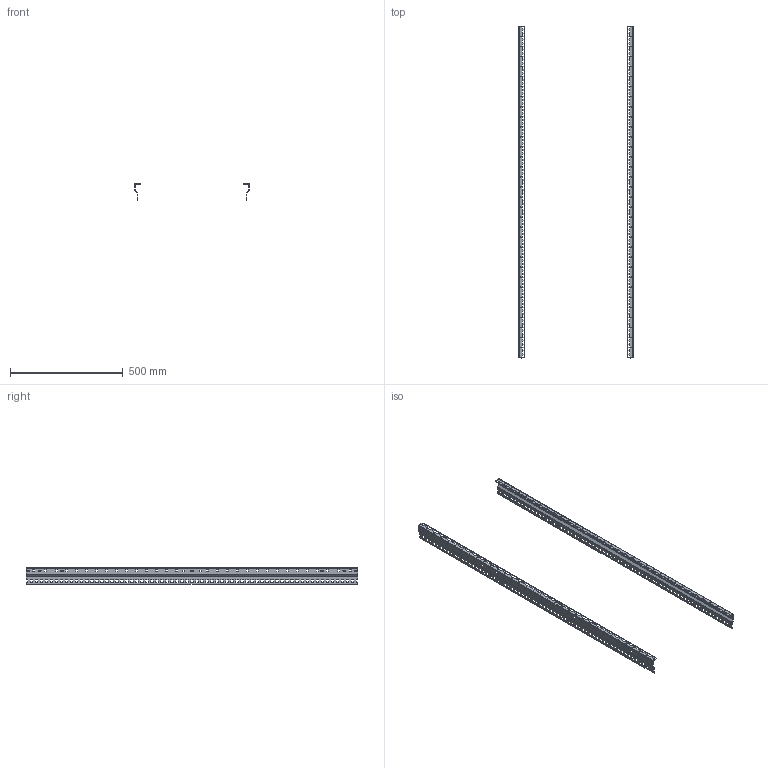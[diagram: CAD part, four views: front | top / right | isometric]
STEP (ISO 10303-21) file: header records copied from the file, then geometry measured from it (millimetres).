
FILE_DESCRIPTION((''),'2;1');
FILE_NAME('NSYBR9F33-3D_ASM','2022-04-20T13:59:37',('SESA6369'),('Schneider-Electric'),'CREO PARAMETRIC BY PTC INC, 2019471','CREO PARAMETRIC BY PTC INC, 2019471','');
FILE_SCHEMA(('AP242_MANAGED_MODEL_BASED_3D_ENGINEERING_MIM_LF { 1 0 10303 442 1 1 4 }'));
Length unit declared in the file: millimetre
Products named in the file (2): ENN2690AS_33U; NSYBR9F33-3D_ASM
Assembly tree (2 placements, depth 2):
  NSYBR9F33-3D_ASM
    ENN2690AS_33U  x2
Bounding box: 508 x 1470.75 x 74 mm (x, y, z)
Volume: 521933.7 mm3; surface area: 567266.5 mm2
Topology: 2 solids, 2 shells, 3680 faces, 10802 edges, 7228 vertices
Faces by surface type: plane 1998, cylinder 1682
Entity records: 63105 total; most frequent: CARTESIAN_POINT 10845, DIRECTION 10783, ORIENTED_EDGE 10776, EDGE_CURVE 5388, VECTOR 3719, LINE 3719, VERTEX_POINT 3584, AXIS2_PLACEMENT_3D 3532
